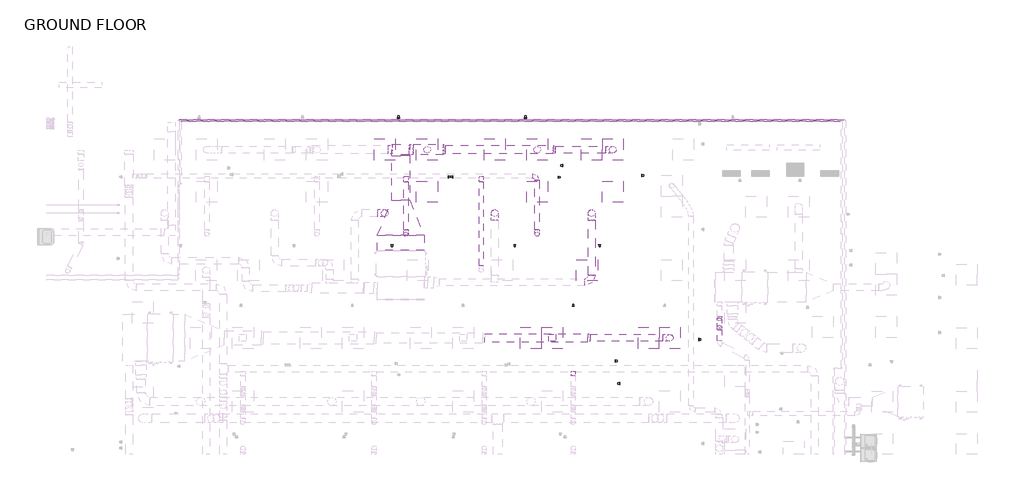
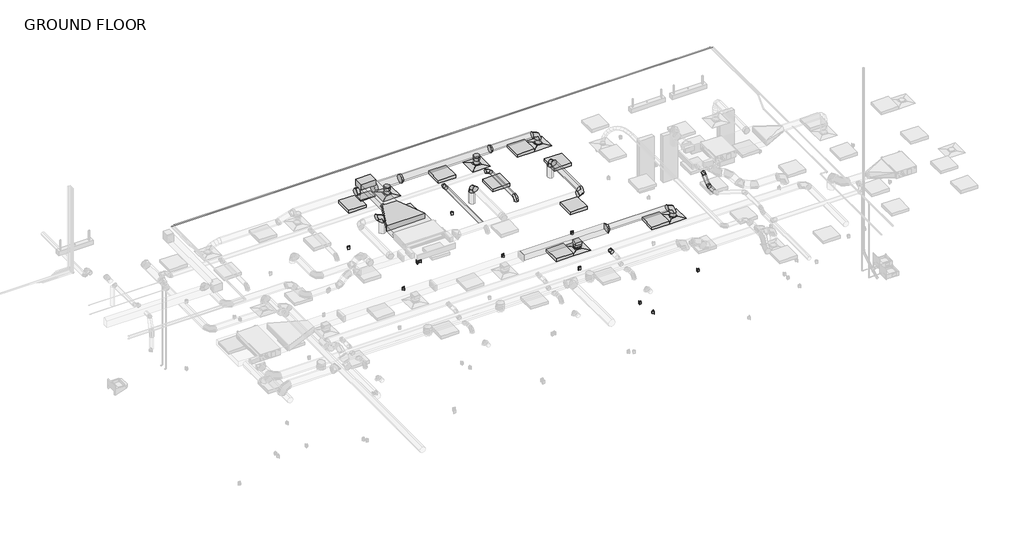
# One storey, part 17 of 20: 26 duct fittings, 24 duct segments, 10 proxies, 9 light fixtures, 5 air terminals, 4 switching devices, 2 pipe segments.
"""IFC4 building model written with IfcOpenShell, lengths in millimetres."""

from ifc_helpers import new_model, si_unit, point, frame, frame_2d, origin, place, context, project, spatial, polyline, circle_curve, trimmed, segment, composite_curve, outline, extrude, transform, mapped, element, save
from components import air_terminal_e9020785, duplex_receptacle_countertop_10251bba, rectangular_elbow_mitered_transition_standard_1af59134, rectangular_endcap_standard_fc39317d, rectangular_takeoff_standard_d07ea574, rectangular_transition_angle_45_degree_5314cfe0, rectangular_to_round_transition_angle_45_degree_e9430680, rectangular_to_round_transition_angle_45_degree_5a025447, round_elbow_1_d_a253342a, round_elbow_1_d_c80420c1, round_elbow_1_d_af7a7a65, round_takeoff_standard_272bb003, round_takeoff_standard_5e8805d5, round_takeoff_standard_98831ccd, round_takeoff_standard_a75a9c41, round_takeoff_standard_ca4b4131, round_takeoff_standard_17dc06e3, round_transition_angle_45_degree_a6ab1efb, round_transition_angle_45_degree_2c0294df, troffer_corner_insert_2x2_3lamp_e67c7f8f

model = new_model("IFC4")

# Units and contexts
model_context = context("Model", 3, world=origin())
ifc_project = project(units=[si_unit("LENGTHUNIT", "METRE", prefix="MILLI")], contexts=[model_context])

# Site, building, storey
site = spatial("IfcSite", under=ifc_project)
building = spatial("IfcBuilding", under=site)
storey = spatial("IfcBuildingStorey", under=building, Name="GROUND FLOOR", Elevation=30480.0)

# Air terminals
placement = place(None, origin())
air_terminal_shape = air_terminal_e9020785(model_context)
element("IfcAirTerminal", 1, ObjectType="Supply Diffuser - Rectangular Face Round Neck - Hosted : 24\"x24\" Face 8\" Neck - Hosted", at=placement, inside=storey, context=model_context, shape_type="MappedRepresentation", body=[
    mapped(air_terminal_shape, transform((6687.5045393, 6811.3695005, 33223.2), x_axis=(0.0, -1.0, 0.0), y_axis=(-1.0, 0.0, 0.0), z_axis=(0.0, 0.0, -1.0))),
])
element("IfcAirTerminal", 2, ObjectType="Supply Diffuser - Rectangular Face Round Neck - Hosted : 24\"x24\" Face 8\" Neck - Hosted", at=placement, inside=storey, context=model_context, shape_type="MappedRepresentation", body=[
    mapped(air_terminal_shape, transform((4938.0681472, 1382.1195005, 33223.2), x_axis=(0.0, -1.0, 0.0), y_axis=(-1.0, 0.0, 0.0), z_axis=(0.0, 0.0, -1.0))),
])
element("IfcAirTerminal", 3, ObjectType="Supply Diffuser - Rectangular Face Round Neck - Hosted : 24\"x24\" Face 8\" Neck - Hosted", at=placement, inside=storey, context=model_context, shape_type="MappedRepresentation", body=[
    mapped(air_terminal_shape, transform((1334.4545393, 6811.3695005, 33223.2), x_axis=(0.0, -1.0, 0.0), y_axis=(-1.0, 0.0, 0.0), z_axis=(0.0, 0.0, -1.0))),
])
element("IfcAirTerminal", 4, ObjectType="Supply Diffuser - Rectangular Face Round Neck - Hosted : 24\"x24\" Face 8\" Neck - Hosted", at=placement, inside=storey, context=model_context, shape_type="MappedRepresentation", body=[
    mapped(air_terminal_shape, transform((4506.2795393, 6811.3695005, 33223.2), x_axis=(0.0, -1.0, 0.0), y_axis=(-1.0, 0.0, 0.0), z_axis=(0.0, 0.0, -1.0))),
])
element("IfcAirTerminal", 5, ObjectType="Supply Diffuser - Rectangular Face Round Neck - Hosted : 24\"x24\" Face 8\" Neck - Hosted", at=placement, inside=storey, context=model_context, shape_type="MappedRepresentation", body=[
    mapped(air_terminal_shape, transform((8328.8671727, 1382.1195005, 33223.2), x_axis=(0.0, -1.0, 0.0), y_axis=(-1.0, 0.0, 0.0), z_axis=(0.0, 0.0, -1.0))),
])

# Proxies
duplex_receptacle_countertop_shape = duplex_receptacle_countertop_10251bba(model_context)
element("IfcBuildingElementProxy", 6, Name="Duplex Receptacle : Standard", ObjectType="Duplex Receptacle : Standard", at=placement, inside=storey, context=model_context, shape_type="MappedRepresentation", body=[
    mapped(duplex_receptacle_countertop_shape, transform((9173.5295393, 1338.7424206, 30937.2), x_axis=(0.0, -1.0, 0.0), y_axis=(0.0, 0.0, 1.0), z_axis=(-1.0, 0.0, 0.0))),
])
element("IfcBuildingElementProxy", 7, Name="Duplex Receptacle : Standard", ObjectType="Duplex Receptacle : Standard", at=placement, inside=storey, context=model_context, shape_type="MappedRepresentation", body=[
    mapped(duplex_receptacle_countertop_shape, transform((6887.5295393, 71.4994744, 30937.2), x_axis=(0.0, 1.0, 0.0), y_axis=(0.0, 0.0, 1.0), z_axis=(1.0, 0.0, 0.0))),
])
element("IfcBuildingElementProxy", 8, Name="Duplex Receptacle : Standard", ObjectType="Duplex Receptacle : Standard", at=placement, inside=storey, context=model_context, shape_type="MappedRepresentation", body=[
    mapped(duplex_receptacle_countertop_shape, transform((6763.7045393, 721.6502033, 30937.2), x_axis=(0.0, -1.0, 0.0), y_axis=(0.0, 0.0, 1.0), z_axis=(-1.0, 0.0, 0.0))),
])
element("IfcBuildingElementProxy", 9, Name="Duplex Receptacle : Standard", ObjectType="Duplex Receptacle : Standard", at=placement, inside=storey, context=model_context, shape_type="MappedRepresentation", body=[
    mapped(duplex_receptacle_countertop_shape, transform((512.696222, 7725.7695005, 30937.2), x_axis=(-1.0, 0.0, 0.0), y_axis=(0.0, 0.0, -1.0), z_axis=(0.0, -1.0, 0.0))),
])
element("IfcBuildingElementProxy", 10, Name="Duplex Receptacle : Standard", ObjectType="Duplex Receptacle : Standard", at=placement, inside=storey, context=model_context, shape_type="MappedRepresentation", body=[
    mapped(duplex_receptacle_countertop_shape, transform((2067.8795393, 6025.6008767, 30937.2), x_axis=(0.0, 1.0, 0.0), y_axis=(0.0, 0.0, 1.0), z_axis=(1.0, 0.0, 0.0))),
])
element("IfcBuildingElementProxy", 11, Name="Duplex Receptacle : Standard", ObjectType="Duplex Receptacle : Standard", at=placement, inside=storey, context=model_context, shape_type="MappedRepresentation", body=[
    mapped(duplex_receptacle_countertop_shape, transform((1944.0545393, 6025.6008767, 30937.2), x_axis=(0.0, -1.0, 0.0), y_axis=(0.0, 0.0, 1.0), z_axis=(-1.0, 0.0, 0.0))),
])
element("IfcBuildingElementProxy", 12, Name="Duplex Receptacle : Standard", ObjectType="Duplex Receptacle : Standard", at=placement, inside=storey, context=model_context, shape_type="MappedRepresentation", body=[
    mapped(duplex_receptacle_countertop_shape, transform((4175.0747127, 7725.7695005, 30937.2), x_axis=(-1.0, 0.0, 0.0), y_axis=(0.0, 0.0, -1.0), z_axis=(0.0, -1.0, 0.0))),
])
element("IfcBuildingElementProxy", 13, Name="Duplex Receptacle : Standard", ObjectType="Duplex Receptacle : Standard", at=placement, inside=storey, context=model_context, shape_type="MappedRepresentation", body=[
    mapped(duplex_receptacle_countertop_shape, transform((5115.8795393, 6012.9284472, 30937.2), x_axis=(0.0, -1.0, 0.0), y_axis=(0.0, 0.0, 1.0), z_axis=(-1.0, 0.0, 0.0))),
])
element("IfcBuildingElementProxy", 14, Name="Duplex Receptacle : Standard", ObjectType="Duplex Receptacle : Standard", at=placement, inside=storey, context=model_context, shape_type="MappedRepresentation", body=[
    mapped(duplex_receptacle_countertop_shape, transform((5239.7045393, 6355.0840427, 30937.2), x_axis=(0.0, 1.0, 0.0), y_axis=(0.0, 0.0, 1.0), z_axis=(1.0, 0.0, 0.0))),
])
element("IfcBuildingElementProxy", 15, Name="Duplex Receptacle : Standard", ObjectType="Duplex Receptacle : Standard", at=placement, inside=storey, context=model_context, shape_type="MappedRepresentation", body=[
    mapped(duplex_receptacle_countertop_shape, transform((7525.7045393, 6063.6181651, 30937.2), x_axis=(0.0, -1.0, 0.0), y_axis=(0.0, 0.0, 1.0), z_axis=(-1.0, 0.0, 0.0))),
])

# Duct fittings
rectangular_elbow_mitered_transition_standard_shape = rectangular_elbow_mitered_transition_standard_1af59134(model_context)
element("IfcDuctFitting", 16, ObjectType="Rectangular Elbow - Mitered - Transition : Standard", at=placement, inside=storey, context=model_context, shape_type="MappedRepresentation", body=[
    mapped(rectangular_elbow_mitered_transition_standard_shape, transform((575.9935718, 6811.3695005, 33934.4), x_axis=(0.0, 1.0, 0.0), y_axis=(0.0, 0.0, -1.0), z_axis=(-1.0, 0.0, 0.0))),
])
rectangular_endcap_standard_shape = rectangular_endcap_standard_fc39317d(model_context)
element("IfcDuctFitting", 17, ObjectType="Rectangular Endcap : Standard", at=placement, inside=storey, context=model_context, shape_type="MappedRepresentation", body=[
    mapped(rectangular_endcap_standard_shape, transform((575.9935718, 6811.3695005, 33426.4), x_axis=(0.0, 0.0, -1.0), y_axis=(1.0, 0.0, 0.0), z_axis=(0.0, -1.0, 0.0))),
])
rectangular_takeoff_standard_shape = rectangular_takeoff_standard_d07ea574(model_context)
element("IfcDuctFitting", 18, ObjectType="Rectangular Takeoff : Standard", at=placement, inside=storey, context=model_context, shape_type="MappedRepresentation", body=[
    mapped(rectangular_takeoff_standard_shape, transform((4938.0681472, 1382.1195005, 33502.6), x_axis=(0.0, 0.0, -1.0), y_axis=(1.0, 0.0, 0.0), z_axis=(0.0, -1.0, 0.0))),
])
rectangular_transition_angle_45_degree_shape = rectangular_transition_angle_45_degree_5314cfe0(model_context)
element("IfcDuctFitting", 19, ObjectType="Rectangular Transition - Angle : 45 Degree", at=placement, inside=storey, context=model_context, shape_type="MappedRepresentation", body=[
    mapped(rectangular_transition_angle_45_degree_shape, transform((575.9935718, 4334.7022191, 33934.4), x_axis=(0.0, 1.0, 0.0), y_axis=(-1.0, 0.0, 0.0), z_axis=(0.0, 0.0, 1.0))),
])
rectangular_to_round_transition_angle_45_degree_shape = rectangular_to_round_transition_angle_45_degree_e9430680(model_context)
element("IfcDuctFitting", 20, ObjectType="Rectangular to Round Transition - Angle : 45 Degree", at=placement, inside=storey, context=model_context, shape_type="MappedRepresentation", body=[
    mapped(rectangular_to_round_transition_angle_45_degree_shape, transform((5972.1335148, 1382.1195005, 33604.2), x_axis=(1.0, 0.0, 0.0), y_axis=(0.0, 1.0, 0.0), z_axis=(0.0, 0.0, 1.0))),
])
rectangular_to_round_transition_angle_45_degree_2_shape = rectangular_to_round_transition_angle_45_degree_5a025447(model_context)
element("IfcDuctFitting", 21, ObjectType="Rectangular to Round Transition - Angle : 45 Degree", at=placement, inside=storey, context=model_context, shape_type="MappedRepresentation", body=[
    mapped(rectangular_to_round_transition_angle_45_degree_2_shape, transform((4938.0681472, 1382.1195005, 33327.975), x_axis=(0.0, 0.0, -1.0), y_axis=(1.0, 0.0, 0.0), z_axis=(0.0, -1.0, 0.0))),
])
round_elbow_1_d_shape = round_elbow_1_d_a253342a(model_context)
element("IfcDuctFitting", 22, ObjectType="Round Elbow : 1 D", at=placement, inside=storey, context=model_context, shape_type="MappedRepresentation", body=[
    mapped(round_elbow_1_d_shape, transform((8328.8671727, 1382.1195005, 33604.2), x_axis=(0.0, 0.0, 1.0), y_axis=(-1.0, 0.0, 0.0), z_axis=(0.0, -1.0, 0.0))),
])
element("IfcDuctFitting", 23, ObjectType="Round Elbow : 1 D", at=placement, inside=storey, context=model_context, shape_type="MappedRepresentation", body=[
    mapped(round_elbow_1_d_shape, transform((6687.5045393, 6811.3695005, 33629.6), x_axis=(1.0, 0.0, 0.0), y_axis=(0.0, 0.0, -1.0), z_axis=(0.0, 1.0, 0.0))),
])
element("IfcDuctFitting", 24, ObjectType="Round Elbow : 1 D", at=placement, inside=storey, context=model_context, shape_type="MappedRepresentation", body=[
    mapped(round_elbow_1_d_shape, transform((115.2545393, 4982.5695005, 33947.89375), x_axis=(0.0, 0.0, 1.0), y_axis=(-1.0, 0.0, 0.0), z_axis=(0.0, -1.0, 0.0))),
])
element("IfcDuctFitting", 25, ObjectType="Round Elbow : 1 D", at=placement, inside=storey, context=model_context, shape_type="MappedRepresentation", body=[
    mapped(round_elbow_1_d_shape, transform((6077.9045393, 4982.5695005, 33947.89375), x_axis=(0.0, 0.0, 1.0), y_axis=(0.0, -1.0, 0.0), z_axis=(1.0, 0.0, 0.0))),
])
element("IfcDuctFitting", 26, ObjectType="Round Elbow : 1 D", at=placement, inside=storey, context=model_context, shape_type="MappedRepresentation", body=[
    mapped(round_elbow_1_d_shape, transform((3287.0795393, 4982.5695005, 33947.89375), x_axis=(0.0, 0.0, 1.0), y_axis=(0.0, -1.0, 0.0), z_axis=(1.0, 0.0, 0.0))),
])
element("IfcDuctFitting", 27, ObjectType="Round Elbow : 1 D", at=placement, inside=storey, context=model_context, shape_type="MappedRepresentation", body=[
    mapped(round_elbow_1_d_shape, transform((6077.9045393, 2984.6075456, 33947.89375), x_axis=(1.0, 0.0, 0.0), y_axis=(0.0, 1.0, 0.0), z_axis=(0.0, 0.0, 1.0))),
])
round_elbow_1_d_2_shape = round_elbow_1_d_c80420c1(model_context)
element("IfcDuctFitting", 28, ObjectType="Round Elbow : 1 D", at=placement, inside=storey, context=model_context, shape_type="MappedRepresentation", body=[
    mapped(round_elbow_1_d_2_shape, transform((4506.2795393, 4372.9695005, 33464.5), x_axis=(0.0, 0.0, 1.0), y_axis=(0.0, 1.0, 0.0), z_axis=(-1.0, 0.0, 0.0))),
])
element("IfcDuctFitting", 29, ObjectType="Round Elbow : 1 D", at=placement, inside=storey, context=model_context, shape_type="MappedRepresentation", body=[
    mapped(round_elbow_1_d_2_shape, transform((724.8545393, 4372.9695005, 33464.5), x_axis=(0.0, -1.0, 0.0), y_axis=(0.0, 0.0, -1.0), z_axis=(1.0, 0.0, 0.0))),
])
element("IfcDuctFitting", 30, ObjectType="Round Elbow : 1 D", at=placement, inside=storey, context=model_context, shape_type="MappedRepresentation", body=[
    mapped(round_elbow_1_d_2_shape, transform((4506.2795393, 6049.3695005, 33464.5), x_axis=(0.0, 1.0, 0.0), y_axis=(-1.0, 0.0, 0.0), z_axis=(0.0, 0.0, 1.0))),
])
round_elbow_1_d_3_shape = round_elbow_1_d_af7a7a65(model_context)
element("IfcDuctFitting", 31, ObjectType="Round Elbow : 1 D", at=placement, inside=storey, context=model_context, shape_type="MappedRepresentation", body=[
    mapped(round_elbow_1_d_3_shape, transform((9756.9865694, 1956.865397, 33992.34375), x_axis=(0.0, -1.0, 0.0), y_axis=(0.0, 0.0, -1.0), z_axis=(1.0, 0.0, 0.0))),
])
element("IfcDuctFitting", 32, ObjectType="Round Elbow : 1 D", at=placement, inside=storey, context=model_context, shape_type="MappedRepresentation", body=[
    mapped(round_elbow_1_d_3_shape, transform((9756.9865694, 1663.3685291, 33705.8), x_axis=(0.0, -0.7155316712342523, -0.698580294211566), y_axis=(0.0, -0.698580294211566, 0.7155316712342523), z_axis=(-1.0, 0.0, 0.0))),
])
round_takeoff_standard_shape = round_takeoff_standard_272bb003(model_context)
element("IfcDuctFitting", 33, ObjectType="Round Takeoff : Standard", at=placement, inside=storey, context=model_context, shape_type="MappedRepresentation", body=[
    mapped(round_takeoff_standard_shape, transform((5547.6681472, 391.7414929, 33528.0), x_axis=(0.0, -1.0, 0.0), y_axis=(-1.0, 0.0, 0.0), z_axis=(0.0, 0.0, -1.0))),
])
round_takeoff_standard_2_shape = round_takeoff_standard_5e8805d5(model_context)
element("IfcDuctFitting", 34, ObjectType="Round Takeoff : Standard", at=placement, inside=storey, context=model_context, shape_type="MappedRepresentation", body=[
    mapped(round_takeoff_standard_2_shape, transform((829.9935718, 6811.3695005, 33629.6), x_axis=(1.0, 0.0, 0.0), y_axis=(0.0, 0.0, 1.0), z_axis=(0.0, -1.0, 0.0))),
])
round_takeoff_standard_3_shape = round_takeoff_standard_98831ccd(model_context)
element("IfcDuctFitting", 35, ObjectType="Round Takeoff : Standard", at=placement, inside=storey, context=model_context, shape_type="MappedRepresentation", body=[
    mapped(round_takeoff_standard_3_shape, transform((321.9935718, 6811.3695005, 33680.0490295), x_axis=(-1.0, 0.0, 0.0), y_axis=(0.0, 0.0, 1.0), z_axis=(0.0, 1.0, 0.0))),
])
round_takeoff_standard_4_shape = round_takeoff_standard_a75a9c41(model_context)
element("IfcDuctFitting", 36, ObjectType="Round Takeoff : Standard", at=placement, inside=storey, context=model_context, shape_type="MappedRepresentation", body=[
    mapped(round_takeoff_standard_4_shape, transform((1334.4545393, 6811.3695005, 33477.2), x_axis=(0.0, 0.0, -1.0), y_axis=(1.0, 0.0, 0.0), z_axis=(0.0, -1.0, 0.0))),
])
round_takeoff_standard_5_shape = round_takeoff_standard_ca4b4131(model_context)
element("IfcDuctFitting", 37, ObjectType="Round Takeoff : Standard", at=placement, inside=storey, context=model_context, shape_type="MappedRepresentation", body=[
    mapped(round_takeoff_standard_5_shape, transform((4506.2795393, 6811.3695005, 33502.6), x_axis=(0.0, 0.0, -1.0), y_axis=(1.0, 0.0, 0.0), z_axis=(0.0, -1.0, 0.0))),
])
round_takeoff_standard_6_shape = round_takeoff_standard_17dc06e3(model_context)
element("IfcDuctFitting", 38, ObjectType="Round Takeoff : Standard", at=placement, inside=storey, context=model_context, shape_type="MappedRepresentation", body=[
    mapped(round_takeoff_standard_6_shape, transform((2896.5545393, 5985.8695005, 33464.5), x_axis=(0.0, -1.0, 0.0), y_axis=(-1.0, 0.0, 0.0), z_axis=(0.0, 0.0, -1.0))),
])
element("IfcDuctFitting", 39, ObjectType="Round Takeoff : Standard", at=placement, inside=storey, context=model_context, shape_type="MappedRepresentation", body=[
    mapped(round_takeoff_standard_6_shape, transform((724.8545393, 5985.8695005, 33464.5), x_axis=(0.0, -1.0, 0.0), y_axis=(-1.0, 0.0, 0.0), z_axis=(0.0, 0.0, -1.0))),
])
round_transition_angle_45_degree_shape = round_transition_angle_45_degree_a6ab1efb(model_context)
element("IfcDuctFitting", 40, ObjectType="Round Transition - Angle : 45 Degree", at=placement, inside=storey, context=model_context, shape_type="MappedRepresentation", body=[
    mapped(round_transition_angle_45_degree_shape, transform((1795.1935718, 6811.3695005, 33629.6), x_axis=(1.0, 0.0, 0.0), y_axis=(0.0, 1.0, 0.0), z_axis=(0.0, 0.0, 1.0))),
])
round_transition_angle_45_degree_2_shape = round_transition_angle_45_degree_2c0294df(model_context)
element("IfcDuctFitting", 41, ObjectType="Round Transition - Angle : 45 Degree", at=placement, inside=storey, context=model_context, shape_type="MappedRepresentation", body=[
    mapped(round_transition_angle_45_degree_2_shape, transform((4970.1935718, 6811.3695005, 33629.6), x_axis=(1.0, 0.0, 0.0), y_axis=(0.0, 1.0, 0.0), z_axis=(0.0, 0.0, 1.0))),
])

# Duct segments
element("IfcDuctSegment", 42, ObjectType="Mitered Elbows / Taps", at=placement, inside=storey, context=model_context, shape_type="SweptSolid", body=[
    extrude(outline(polyline([(2995.9755638, 1255.1195005), (2995.9755638, 1509.1195005), (5972.1335148, 1509.1195005), (5972.1335148, 1255.1195005), (2995.9755638, 1255.1195005)])), frame((0.0, 0.0, 33502.6), z_axis=(0.0, 0.0, 1.0), x_axis=(1.0, 0.0, 0.0)), (0.0, 0.0, 1.0), 203.2),
])
element("IfcDuctSegment", 43, ObjectType="Mitered Elbows / Taps", at=placement, inside=storey, context=model_context, shape_type="SweptSolid", body=[
    extrude(outline(polyline([(5039.6681472, 1280.5195005), (4836.4681472, 1280.5195005), (4836.4681472, 1483.7195005), (5039.6681472, 1483.7195005), (5039.6681472, 1280.5195005)])), frame((0.0, 0.0, 33327.975), z_axis=(0.0, 0.0, 1.0), x_axis=(1.0, 0.0, 0.0)), (0.0, 0.0, 1.0), 73.025),
])
element("IfcDuctSegment", 44, ObjectType="Mitered Elbows / Taps", at=placement, inside=storey, context=model_context, shape_type="SweptSolid", body=[
    extrude(outline(polyline([(829.9935718, 5346.4991231), (321.9935718, 5346.4991231), (321.9935718, 6633.5695005), (829.9935718, 6633.5695005), (829.9935718, 5346.4991231)])), frame((0.0, 0.0, 33832.8), z_axis=(0.0, 0.0, 1.0), x_axis=(1.0, 0.0, 0.0)), (0.0, 0.0, 1.0), 203.2),
])
element("IfcDuctSegment", 45, ObjectType="Mitered Elbows / Taps", at=placement, inside=storey, context=model_context, shape_type="SweptSolid", body=[
    extrude(outline(polyline([(829.9935718, 6963.7695005), (829.9935718, 6658.9695005), (321.9935718, 6658.9695005), (321.9935718, 6963.7695005), (829.9935718, 6963.7695005)])), frame((0.0, 0.0, 33426.4), z_axis=(0.0, 0.0, 1.0), x_axis=(1.0, 0.0, 0.0)), (0.0, 0.0, 1.0), 381.0),
])
element("IfcDuctSegment", 46, ObjectType="Mitered Elbows / Taps", at=placement, inside=storey, context=model_context, shape_type="SweptSolid", body=[
    extrude(outline(polyline([(1249.0935718, 3902.9022191), (-97.1064282, 3902.9022191), (-97.1064282, 4334.7022191), (1249.0935718, 4334.7022191), (1249.0935718, 3902.9022191)])), frame((0.0, 0.0, 33832.8), z_axis=(0.0, 0.0, 1.0), x_axis=(1.0, 0.0, 0.0)), (0.0, 0.0, 1.0), 203.2),
])
element("IfcDuctSegment", 47, ObjectType="Taps / Short Radius", at=placement, inside=storey, context=model_context, shape_type="SweptSolid", body=[
    extrude(outline(composite_curve([segment(trimmed(circle_curve(frame_2d((1382.1195005, 33604.2)), 101.6), [point((1483.7195005, 33604.2))], [point((1382.1195005, 33502.6))], False, "CARTESIAN"), True, "CONTINUOUS"), segment(trimmed(circle_curve(frame_2d((1382.1195005, 33604.2)), 101.6), [point((1382.1195005, 33502.6))], [point((1280.5195005, 33604.2))], False, "CARTESIAN"), True, "CONTINUOUS"), segment(trimmed(circle_curve(frame_2d((1382.1195005, 33604.2)), 101.6), [point((1280.5195005, 33604.2))], [point((1382.1195005, 33705.8))], False, "CARTESIAN"), True, "CONTINUOUS"), segment(trimmed(circle_curve(frame_2d((1382.1195005, 33604.2)), 101.6), [point((1382.1195005, 33705.8))], [point((1483.7195005, 33604.2))], False, "CARTESIAN"), True, "CONTINUOUS")], self_intersect=False)), frame((6033.4545393, 0.0, 0.0), z_axis=(1.0, 0.0, 0.0), x_axis=(0.0, 1.0, 0.0)), (0.0, 0.0, 1.0), 2092.2126334),
])
element("IfcDuctSegment", 48, ObjectType="Taps / Short Radius", at=placement, inside=storey, context=model_context, shape_type="SweptSolid", body=[
    extrude(outline(composite_curve([segment(trimmed(circle_curve(frame_2d((8328.8671727, 1382.1195005)), 101.6), [point((8328.8671727, 1483.7195005))], [point((8430.4671727, 1382.1195005))], False, "CARTESIAN"), True, "CONTINUOUS"), segment(trimmed(circle_curve(frame_2d((8328.8671727, 1382.1195005)), 101.6), [point((8430.4671727, 1382.1195005))], [point((8328.8671727, 1280.5195005))], False, "CARTESIAN"), True, "CONTINUOUS"), segment(trimmed(circle_curve(frame_2d((8328.8671727, 1382.1195005)), 101.6), [point((8328.8671727, 1280.5195005))], [point((8227.2671727, 1382.1195005))], False, "CARTESIAN"), True, "CONTINUOUS"), segment(trimmed(circle_curve(frame_2d((8328.8671727, 1382.1195005)), 101.6), [point((8227.2671727, 1382.1195005))], [point((8328.8671727, 1483.7195005))], False, "CARTESIAN"), True, "CONTINUOUS")], self_intersect=False)), frame((0.0, 0.0, 33277.175), z_axis=(0.0, 0.0, 1.0), x_axis=(1.0, 0.0, 0.0)), (0.0, 0.0, 1.0), 123.825),
])
element("IfcDuctSegment", 49, ObjectType="Taps / Short Radius", at=placement, inside=storey, context=model_context, shape_type="SweptSolid", body=[
    extrude(outline(composite_curve([segment(trimmed(circle_curve(frame_2d((6811.3695005, 33629.6)), 152.4), [point((6658.9695005, 33629.6))], [point((6811.3695005, 33782.0))], False, "CARTESIAN"), True, "CONTINUOUS"), segment(trimmed(circle_curve(frame_2d((6811.3695005, 33629.6)), 152.4), [point((6811.3695005, 33782.0))], [point((6963.7695005, 33629.6))], False, "CARTESIAN"), True, "CONTINUOUS"), segment(trimmed(circle_curve(frame_2d((6811.3695005, 33629.6)), 152.4), [point((6963.7695005, 33629.6))], [point((6811.3695005, 33477.2))], False, "CARTESIAN"), True, "CONTINUOUS"), segment(trimmed(circle_curve(frame_2d((6811.3695005, 33629.6)), 152.4), [point((6811.3695005, 33477.2))], [point((6658.9695005, 33629.6))], False, "CARTESIAN"), True, "CONTINUOUS")], self_intersect=False)), frame((931.5935718, 0.0, 0.0), z_axis=(1.0, 0.0, 0.0), x_axis=(0.0, 1.0, 0.0)), (0.0, 0.0, 1.0), 863.6),
])
element("IfcDuctSegment", 50, ObjectType="Taps / Short Radius", at=placement, inside=storey, context=model_context, shape_type="SweptSolid", body=[
    extrude(outline(composite_curve([segment(trimmed(circle_curve(frame_2d((6811.3695005, 33629.6)), 127.0), [point((6684.3695005, 33629.6))], [point((6811.3695005, 33756.6))], False, "CARTESIAN"), True, "CONTINUOUS"), segment(trimmed(circle_curve(frame_2d((6811.3695005, 33629.6)), 127.0), [point((6811.3695005, 33756.6))], [point((6938.3695005, 33629.6))], False, "CARTESIAN"), True, "CONTINUOUS"), segment(trimmed(circle_curve(frame_2d((6811.3695005, 33629.6)), 127.0), [point((6938.3695005, 33629.6))], [point((6811.3695005, 33502.6))], False, "CARTESIAN"), True, "CONTINUOUS"), segment(trimmed(circle_curve(frame_2d((6811.3695005, 33629.6)), 127.0), [point((6811.3695005, 33502.6))], [point((6684.3695005, 33629.6))], False, "CARTESIAN"), True, "CONTINUOUS")], self_intersect=False)), frame((1856.5145963, 0.0, 0.0), z_axis=(1.0, 0.0, 0.0), x_axis=(0.0, 1.0, 0.0)), (0.0, 0.0, 1.0), 3113.6789755),
])
element("IfcDuctSegment", 51, ObjectType="Taps / Short Radius", at=placement, inside=storey, context=model_context, shape_type="SweptSolid", body=[
    extrude(outline(composite_curve([segment(trimmed(circle_curve(frame_2d((6811.3695005, 33629.6)), 101.6), [point((6709.7695005, 33629.6))], [point((6811.3695005, 33731.2))], False, "CARTESIAN"), True, "CONTINUOUS"), segment(trimmed(circle_curve(frame_2d((6811.3695005, 33629.6)), 101.6), [point((6811.3695005, 33731.2))], [point((6912.9695005, 33629.6))], False, "CARTESIAN"), True, "CONTINUOUS"), segment(trimmed(circle_curve(frame_2d((6811.3695005, 33629.6)), 101.6), [point((6912.9695005, 33629.6))], [point((6811.3695005, 33528.0))], False, "CARTESIAN"), True, "CONTINUOUS"), segment(trimmed(circle_curve(frame_2d((6811.3695005, 33629.6)), 101.6), [point((6811.3695005, 33528.0))], [point((6709.7695005, 33629.6))], False, "CARTESIAN"), True, "CONTINUOUS")], self_intersect=False)), frame((5031.5145963, 0.0, 0.0), z_axis=(1.0, 0.0, 0.0), x_axis=(0.0, 1.0, 0.0)), (0.0, 0.0, 1.0), 1452.789943),
])
element("IfcDuctSegment", 52, ObjectType="Taps / Short Radius", at=placement, inside=storey, context=model_context, shape_type="SweptSolid", body=[
    extrude(outline(composite_curve([segment(trimmed(circle_curve(frame_2d((6687.5045393, 6811.3695005)), 101.6), [point((6687.5045393, 6912.9695005))], [point((6789.1045393, 6811.3695005))], False, "CARTESIAN"), True, "CONTINUOUS"), segment(trimmed(circle_curve(frame_2d((6687.5045393, 6811.3695005)), 101.6), [point((6789.1045393, 6811.3695005))], [point((6687.5045393, 6709.7695005))], False, "CARTESIAN"), True, "CONTINUOUS"), segment(trimmed(circle_curve(frame_2d((6687.5045393, 6811.3695005)), 101.6), [point((6687.5045393, 6709.7695005))], [point((6585.9045393, 6811.3695005))], False, "CARTESIAN"), True, "CONTINUOUS"), segment(trimmed(circle_curve(frame_2d((6687.5045393, 6811.3695005)), 101.6), [point((6585.9045393, 6811.3695005))], [point((6687.5045393, 6912.9695005))], False, "CARTESIAN"), True, "CONTINUOUS")], self_intersect=False)), frame((0.0, 0.0, 33277.175), z_axis=(0.0, 0.0, 1.0), x_axis=(1.0, 0.0, 0.0)), (0.0, 0.0, 1.0), 149.225),
])
element("IfcDuctSegment", 53, ObjectType="Taps / Short Radius", at=placement, inside=storey, context=model_context, shape_type="SweptSolid", body=[
    extrude(outline(composite_curve([segment(trimmed(circle_curve(frame_2d((4506.2795393, 6811.3695005)), 101.6), [point((4607.8795393, 6811.3695005))], [point((4506.2795393, 6709.7695005))], False, "CARTESIAN"), True, "CONTINUOUS"), segment(trimmed(circle_curve(frame_2d((4506.2795393, 6811.3695005)), 101.6), [point((4506.2795393, 6709.7695005))], [point((4404.6795393, 6811.3695005))], False, "CARTESIAN"), True, "CONTINUOUS"), segment(trimmed(circle_curve(frame_2d((4506.2795393, 6811.3695005)), 101.6), [point((4404.6795393, 6811.3695005))], [point((4506.2795393, 6912.9695005))], False, "CARTESIAN"), True, "CONTINUOUS"), segment(trimmed(circle_curve(frame_2d((4506.2795393, 6811.3695005)), 101.6), [point((4506.2795393, 6912.9695005))], [point((4607.8795393, 6811.3695005))], False, "CARTESIAN"), True, "CONTINUOUS")], self_intersect=False)), frame((0.0, 0.0, 33277.175), z_axis=(0.0, 0.0, 1.0), x_axis=(1.0, 0.0, 0.0)), (0.0, 0.0, 1.0), 123.825),
])
element("IfcDuctSegment", 54, ObjectType="Taps / Short Radius", at=placement, inside=storey, context=model_context, shape_type="SweptSolid", body=[
    extrude(outline(composite_curve([segment(trimmed(circle_curve(frame_2d((1334.4545393, 6811.3695005)), 101.6), [point((1436.0545393, 6811.3695005))], [point((1334.4545393, 6709.7695005))], False, "CARTESIAN"), True, "CONTINUOUS"), segment(trimmed(circle_curve(frame_2d((1334.4545393, 6811.3695005)), 101.6), [point((1334.4545393, 6709.7695005))], [point((1232.8545393, 6811.3695005))], False, "CARTESIAN"), True, "CONTINUOUS"), segment(trimmed(circle_curve(frame_2d((1334.4545393, 6811.3695005)), 101.6), [point((1232.8545393, 6811.3695005))], [point((1334.4545393, 6912.9695005))], False, "CARTESIAN"), True, "CONTINUOUS"), segment(trimmed(circle_curve(frame_2d((1334.4545393, 6811.3695005)), 101.6), [point((1334.4545393, 6912.9695005))], [point((1436.0545393, 6811.3695005))], False, "CARTESIAN"), True, "CONTINUOUS")], self_intersect=False)), frame((0.0, 0.0, 33277.175), z_axis=(0.0, 0.0, 1.0), x_axis=(1.0, 0.0, 0.0)), (0.0, 0.0, 1.0), 98.425),
])
element("IfcDuctSegment", 55, ObjectType="Taps / Short Radius", at=placement, inside=storey, context=model_context, shape_type="SweptSolid", body=[
    extrude(outline(composite_curve([segment(trimmed(circle_curve(frame_2d((115.2545393, 4982.5695005)), 101.6), [point((115.2545393, 5084.1695005))], [point((216.8545393, 4982.5695005))], False, "CARTESIAN"), True, "CONTINUOUS"), segment(trimmed(circle_curve(frame_2d((115.2545393, 4982.5695005)), 101.6), [point((216.8545393, 4982.5695005))], [point((115.2545393, 4880.9695005))], False, "CARTESIAN"), True, "CONTINUOUS"), segment(trimmed(circle_curve(frame_2d((115.2545393, 4982.5695005)), 101.6), [point((115.2545393, 4880.9695005))], [point((13.6545393, 4982.5695005))], False, "CARTESIAN"), True, "CONTINUOUS"), segment(trimmed(circle_curve(frame_2d((115.2545393, 4982.5695005)), 101.6), [point((13.6545393, 4982.5695005))], [point((115.2545393, 5084.1695005))], False, "CARTESIAN"), True, "CONTINUOUS")], self_intersect=False)), frame((0.0, 0.0, 33324.8), z_axis=(0.0, 0.0, 1.0), x_axis=(1.0, 0.0, 0.0)), (0.0, 0.0, 1.0), 419.89375),
])
element("IfcDuctSegment", 56, ObjectType="Taps / Short Radius", at=placement, inside=storey, context=model_context, shape_type="SweptSolid", body=[
    extrude(outline(composite_curve([segment(trimmed(circle_curve(frame_2d((33947.89375, 6077.9045393)), 101.6), [point((33947.89375, 5976.3045393))], [point((33846.29375, 6077.9045393))], False, "CARTESIAN"), True, "CONTINUOUS"), segment(trimmed(circle_curve(frame_2d((33947.89375, 6077.9045393)), 101.6), [point((33846.29375, 6077.9045393))], [point((33947.89375, 6179.5045393))], False, "CARTESIAN"), True, "CONTINUOUS"), segment(trimmed(circle_curve(frame_2d((33947.89375, 6077.9045393)), 101.6), [point((33947.89375, 6179.5045393))], [point((34049.49375, 6077.9045393))], False, "CARTESIAN"), True, "CONTINUOUS"), segment(trimmed(circle_curve(frame_2d((33947.89375, 6077.9045393)), 101.6), [point((34049.49375, 6077.9045393))], [point((33947.89375, 5976.3045393))], False, "CARTESIAN"), True, "CONTINUOUS")], self_intersect=False)), frame((0.0, 3187.8075456, 0.0), z_axis=(0.0, 1.0, 0.0), x_axis=(0.0, 0.0, 1.0)), (0.0, 0.0, 1.0), 1591.5619549),
])
element("IfcDuctSegment", 57, ObjectType="Taps / Short Radius", at=placement, inside=storey, context=model_context, shape_type="SweptSolid", body=[
    extrude(outline(composite_curve([segment(trimmed(circle_curve(frame_2d((6077.9045393, 4982.5695005)), 101.6), [point((5976.3045393, 4982.5695005))], [point((6077.9045393, 5084.1695005))], False, "CARTESIAN"), True, "CONTINUOUS"), segment(trimmed(circle_curve(frame_2d((6077.9045393, 4982.5695005)), 101.6), [point((6077.9045393, 5084.1695005))], [point((6179.5045393, 4982.5695005))], False, "CARTESIAN"), True, "CONTINUOUS"), segment(trimmed(circle_curve(frame_2d((6077.9045393, 4982.5695005)), 101.6), [point((6179.5045393, 4982.5695005))], [point((6077.9045393, 4880.9695005))], False, "CARTESIAN"), True, "CONTINUOUS"), segment(trimmed(circle_curve(frame_2d((6077.9045393, 4982.5695005)), 101.6), [point((6077.9045393, 4880.9695005))], [point((5976.3045393, 4982.5695005))], False, "CARTESIAN"), True, "CONTINUOUS")], self_intersect=False)), frame((0.0, 0.0, 33324.8), z_axis=(0.0, 0.0, 1.0), x_axis=(1.0, 0.0, 0.0)), (0.0, 0.0, 1.0), 419.89375),
])
element("IfcDuctSegment", 58, ObjectType="Taps / Short Radius", at=placement, inside=storey, context=model_context, shape_type="SweptSolid", body=[
    extrude(outline(composite_curve([segment(trimmed(circle_curve(frame_2d((3287.0795393, 4982.5695005)), 101.6), [point((3185.4795393, 4982.5695005))], [point((3287.0795393, 5084.1695005))], False, "CARTESIAN"), True, "CONTINUOUS"), segment(trimmed(circle_curve(frame_2d((3287.0795393, 4982.5695005)), 101.6), [point((3287.0795393, 5084.1695005))], [point((3388.6795393, 4982.5695005))], False, "CARTESIAN"), True, "CONTINUOUS"), segment(trimmed(circle_curve(frame_2d((3287.0795393, 4982.5695005)), 101.6), [point((3388.6795393, 4982.5695005))], [point((3287.0795393, 4880.9695005))], False, "CARTESIAN"), True, "CONTINUOUS"), segment(trimmed(circle_curve(frame_2d((3287.0795393, 4982.5695005)), 101.6), [point((3287.0795393, 4880.9695005))], [point((3185.4795393, 4982.5695005))], False, "CARTESIAN"), True, "CONTINUOUS")], self_intersect=False)), frame((0.0, 0.0, 33324.8), z_axis=(0.0, 0.0, 1.0), x_axis=(1.0, 0.0, 0.0)), (0.0, 0.0, 1.0), 419.89375),
])
element("IfcDuctSegment", 59, ObjectType="Taps / Short Radius", at=placement, inside=storey, context=model_context, shape_type="SweptSolid", body=[
    extrude(outline(composite_curve([segment(trimmed(circle_curve(frame_2d((0.0, -63.5)), 63.5), [point((-63.5, -63.5))], [point((0.0, 0.0))], False, "CARTESIAN"), True, "CONTINUOUS"), segment(trimmed(circle_curve(frame_2d((0.0, -63.5)), 63.5), [point((0.0, 0.0))], [point((63.5, -63.5))], False, "CARTESIAN"), True, "CONTINUOUS"), segment(trimmed(circle_curve(frame_2d((0.0, -63.5)), 63.5), [point((63.5, -63.5))], [point((0.0, -127.0))], False, "CARTESIAN"), True, "CONTINUOUS"), segment(trimmed(circle_curve(frame_2d((0.0, -63.5)), 63.5), [point((0.0, -127.0))], [point((-63.5, -63.5))], False, "CARTESIAN"), True, "CONTINUOUS")], self_intersect=False)), frame((9756.9865694, 1744.7325056, 33696.4912166), z_axis=(0.0, 0.7155316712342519, 0.6985802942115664), x_axis=(1.0, 0.0, 0.0)), (0.0, 0.0, 1.0), 306.7489826),
])
element("IfcDuctSegment", 60, ObjectType="Taps / Short Radius", at=placement, inside=storey, context=model_context, shape_type="SweptSolid", body=[
    extrude(outline(composite_curve([segment(trimmed(circle_curve(frame_2d((33705.8, 9756.9865694)), 63.5), [point((33705.8, 9693.4865694))], [point((33642.3, 9756.9865694))], False, "CARTESIAN"), True, "CONTINUOUS"), segment(trimmed(circle_curve(frame_2d((33705.8, 9756.9865694)), 63.5), [point((33642.3, 9756.9865694))], [point((33705.8, 9820.4865694))], False, "CARTESIAN"), True, "CONTINUOUS"), segment(trimmed(circle_curve(frame_2d((33705.8, 9756.9865694)), 63.5), [point((33705.8, 9820.4865694))], [point((33769.3, 9756.9865694))], False, "CARTESIAN"), True, "CONTINUOUS"), segment(trimmed(circle_curve(frame_2d((33705.8, 9756.9865694)), 63.5), [point((33769.3, 9756.9865694))], [point((33705.8, 9693.4865694))], False, "CARTESIAN"), True, "CONTINUOUS")], self_intersect=False)), frame((0.0, 1302.5512314, 0.0), z_axis=(0.0, 1.0, 0.0), x_axis=(0.0, 0.0, 1.0)), (0.0, 0.0, 1.0), 309.1017282),
])
element("IfcDuctSegment", 61, ObjectType="Taps / Short Radius", at=placement, inside=storey, context=model_context, shape_type="SweptSolid", body=[
    extrude(outline(composite_curve([segment(trimmed(circle_curve(frame_2d((33464.5, 4506.2795393)), 63.5), [point((33464.5, 4569.7795393))], [point((33528.0, 4506.2795393))], False, "CARTESIAN"), True, "CONTINUOUS"), segment(trimmed(circle_curve(frame_2d((33464.5, 4506.2795393)), 63.5), [point((33528.0, 4506.2795393))], [point((33464.5, 4442.7795393))], False, "CARTESIAN"), True, "CONTINUOUS"), segment(trimmed(circle_curve(frame_2d((33464.5, 4506.2795393)), 63.5), [point((33464.5, 4442.7795393))], [point((33401.0, 4506.2795393))], False, "CARTESIAN"), True, "CONTINUOUS"), segment(trimmed(circle_curve(frame_2d((33464.5, 4506.2795393)), 63.5), [point((33401.0, 4506.2795393))], [point((33464.5, 4569.7795393))], False, "CARTESIAN"), True, "CONTINUOUS")], self_intersect=False)), frame((0.0, 4499.9695005, 0.0), z_axis=(0.0, 1.0, 0.0), x_axis=(0.0, 0.0, 1.0)), (0.0, 0.0, 1.0), 1422.4),
])
element("IfcDuctSegment", 62, ObjectType="Taps / Short Radius", at=placement, inside=storey, context=model_context, shape_type="SweptSolid", body=[
    extrude(outline(composite_curve([segment(trimmed(circle_curve(frame_2d((4506.2795393, 4372.9695005)), 63.5), [point((4569.7795393, 4372.9695005))], [point((4506.2795393, 4309.4695005))], False, "CARTESIAN"), True, "CONTINUOUS"), segment(trimmed(circle_curve(frame_2d((4506.2795393, 4372.9695005)), 63.5), [point((4506.2795393, 4309.4695005))], [point((4442.7795393, 4372.9695005))], False, "CARTESIAN"), True, "CONTINUOUS"), segment(trimmed(circle_curve(frame_2d((4506.2795393, 4372.9695005)), 63.5), [point((4442.7795393, 4372.9695005))], [point((4506.2795393, 4436.4695005))], False, "CARTESIAN"), True, "CONTINUOUS"), segment(trimmed(circle_curve(frame_2d((4506.2795393, 4372.9695005)), 63.5), [point((4506.2795393, 4436.4695005))], [point((4569.7795393, 4372.9695005))], False, "CARTESIAN"), True, "CONTINUOUS")], self_intersect=False)), frame((0.0, 0.0, 33324.8), z_axis=(0.0, 0.0, 1.0), x_axis=(1.0, 0.0, 0.0)), (0.0, 0.0, 1.0), 12.7),
])
element("IfcDuctSegment", 63, ObjectType="Taps / Short Radius", at=placement, inside=storey, context=model_context, shape_type="SweptSolid", body=[
    extrude(outline(composite_curve([segment(trimmed(circle_curve(frame_2d((33464.5, 2896.5545393)), 63.5), [point((33464.5, 2833.0545393))], [point((33401.0, 2896.5545393))], False, "CARTESIAN"), True, "CONTINUOUS"), segment(trimmed(circle_curve(frame_2d((33464.5, 2896.5545393)), 63.5), [point((33401.0, 2896.5545393))], [point((33464.5, 2960.0545393))], False, "CARTESIAN"), True, "CONTINUOUS"), segment(trimmed(circle_curve(frame_2d((33464.5, 2896.5545393)), 63.5), [point((33464.5, 2960.0545393))], [point((33528.0, 2896.5545393))], False, "CARTESIAN"), True, "CONTINUOUS"), segment(trimmed(circle_curve(frame_2d((33464.5, 2896.5545393)), 63.5), [point((33528.0, 2896.5545393))], [point((33464.5, 2833.0545393))], False, "CARTESIAN"), True, "CONTINUOUS")], self_intersect=False)), frame((0.0, 3461.7445005, 0.0), z_axis=(0.0, 1.0, 0.0), x_axis=(0.0, 0.0, 1.0)), (0.0, 0.0, 1.0), 2422.525),
])
element("IfcDuctSegment", 64, ObjectType="Taps / Short Radius", at=placement, inside=storey, context=model_context, shape_type="SweptSolid", body=[
    extrude(outline(composite_curve([segment(trimmed(circle_curve(frame_2d((0.0, 63.5)), 63.5), [point((-63.5, 63.5))], [point((0.0, 127.0))], False, "CARTESIAN"), True, "CONTINUOUS"), segment(trimmed(circle_curve(frame_2d((0.0, 63.5)), 63.5), [point((0.0, 127.0))], [point((63.5, 63.5))], False, "CARTESIAN"), True, "CONTINUOUS"), segment(trimmed(circle_curve(frame_2d((0.0, 63.5)), 63.5), [point((63.5, 63.5))], [point((0.0, 0.0))], False, "CARTESIAN"), True, "CONTINUOUS"), segment(trimmed(circle_curve(frame_2d((0.0, 63.5)), 63.5), [point((0.0, 0.0))], [point((-63.5, 63.5))], False, "CARTESIAN"), True, "CONTINUOUS")], self_intersect=False)), frame((724.8545393, 4309.4695005, 33324.8), z_axis=(0.0, -1.0231815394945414e-12, 1.0), x_axis=(1.0, 0.0, 0.0)), (0.0, 0.0, 1.0), 12.7),
])
element("IfcDuctSegment", 65, ObjectType="Taps / Short Radius", at=placement, inside=storey, context=model_context, shape_type="SweptSolid", body=[
    extrude(outline(composite_curve([segment(trimmed(circle_curve(frame_2d((33464.5, 724.8545393)), 63.5), [point((33464.5, 661.3545393))], [point((33401.0, 724.8545393))], False, "CARTESIAN"), True, "CONTINUOUS"), segment(trimmed(circle_curve(frame_2d((33464.5, 724.8545393)), 63.5), [point((33401.0, 724.8545393))], [point((33464.5, 788.3545393))], False, "CARTESIAN"), True, "CONTINUOUS"), segment(trimmed(circle_curve(frame_2d((33464.5, 724.8545393)), 63.5), [point((33464.5, 788.3545393))], [point((33528.0, 724.8545393))], False, "CARTESIAN"), True, "CONTINUOUS"), segment(trimmed(circle_curve(frame_2d((33464.5, 724.8545393)), 63.5), [point((33528.0, 724.8545393))], [point((33464.5, 661.3545393))], False, "CARTESIAN"), True, "CONTINUOUS")], self_intersect=False)), frame((0.0, 4499.9695005, 0.0), z_axis=(0.0, 1.0, 0.0), x_axis=(0.0, 0.0, 1.0)), (0.0, 0.0, 1.0), 1384.3),
])

# Light fixtures
troffer_corner_insert_2x2_3lamp_shape = troffer_corner_insert_2x2_3lamp_e67c7f8f(model_context)
element("IfcLightFixture", 66, ObjectType="Troffer Corner Insert : 2x2 3Lamp", at=placement, inside=storey, context=model_context, shape_type="MappedRepresentation", body=[
    mapped(troffer_corner_insert_2x2_3lamp_shape, transform((115.2545393, 6811.3695005, 30784.8), x_axis=(1.0, 0.0, 0.0), y_axis=(0.0, 1.0, 0.0), z_axis=(0.0, 0.0, 1.0))),
])
element("IfcLightFixture", 67, ObjectType="Troffer Corner Insert : 2x2 3Lamp", at=placement, inside=storey, context=model_context, shape_type="MappedRepresentation", body=[
    mapped(troffer_corner_insert_2x2_3lamp_shape, transform((1334.4545393, 5592.1695005, 30784.8), x_axis=(1.0, 0.0, 0.0), y_axis=(0.0, 1.0, 0.0), z_axis=(0.0, 0.0, 1.0))),
])
element("IfcLightFixture", 68, ObjectType="Troffer Corner Insert : 2x2 3Lamp", at=placement, inside=storey, context=model_context, shape_type="MappedRepresentation", body=[
    mapped(troffer_corner_insert_2x2_3lamp_shape, transform((3287.0795393, 6811.3695005, 30784.8), x_axis=(1.0, 0.0, 0.0), y_axis=(0.0, 1.0, 0.0), z_axis=(0.0, 0.0, 1.0))),
])
element("IfcLightFixture", 69, ObjectType="Troffer Corner Insert : 2x2 3Lamp", at=placement, inside=storey, context=model_context, shape_type="MappedRepresentation", body=[
    mapped(troffer_corner_insert_2x2_3lamp_shape, transform((4506.2795393, 5592.1695005, 30784.8), x_axis=(1.0, 0.0, 0.0), y_axis=(0.0, 1.0, 0.0), z_axis=(0.0, 0.0, 1.0))),
])
element("IfcLightFixture", 70, ObjectType="Troffer Corner Insert : 2x2 3Lamp", at=placement, inside=storey, context=model_context, shape_type="MappedRepresentation", body=[
    mapped(troffer_corner_insert_2x2_3lamp_shape, transform((6077.9045393, 6811.3695005, 30784.8), x_axis=(1.0, 0.0, 0.0), y_axis=(0.0, 1.0, 0.0), z_axis=(0.0, 0.0, 1.0))),
])
element("IfcLightFixture", 71, ObjectType="Troffer Corner Insert : 2x2 3Lamp", at=placement, inside=storey, context=model_context, shape_type="MappedRepresentation", body=[
    mapped(troffer_corner_insert_2x2_3lamp_shape, transform((6687.5045393, 5592.1695005, 30784.8), x_axis=(1.0, 0.0, 0.0), y_axis=(0.0, 1.0, 0.0), z_axis=(0.0, 0.0, 1.0))),
])
element("IfcLightFixture", 72, ObjectType="Troffer Corner Insert : 2x2 3Lamp", at=placement, inside=storey, context=model_context, shape_type="MappedRepresentation", body=[
    mapped(troffer_corner_insert_2x2_3lamp_shape, transform((5944.5545393, 3334.7445005, 30784.8), x_axis=(1.0, 0.0, 0.0), y_axis=(0.0, 1.0, 0.0), z_axis=(0.0, 0.0, 1.0))),
])
element("IfcLightFixture", 73, ObjectType="Troffer Corner Insert : 2x2 3Lamp", at=placement, inside=storey, context=model_context, shape_type="MappedRepresentation", body=[
    mapped(troffer_corner_insert_2x2_3lamp_shape, transform((4325.3045393, 1382.1195005, 30784.8), x_axis=(1.0, 0.0, 0.0), y_axis=(0.0, 1.0, 0.0), z_axis=(0.0, 0.0, 1.0))),
])
element("IfcLightFixture", 74, ObjectType="Troffer Corner Insert : 2x2 3Lamp", at=placement, inside=storey, context=model_context, shape_type="MappedRepresentation", body=[
    mapped(troffer_corner_insert_2x2_3lamp_shape, transform((7719.2671727, 1382.1195005, 30784.8), x_axis=(1.0, 0.0, 0.0), y_axis=(0.0, 1.0, 0.0), z_axis=(0.0, 0.0, 1.0))),
])

# Pipe segments
element("IfcPipeSegment", 75, ObjectType="Copper Tubing", at=placement, inside=storey, context=model_context, shape_type="SweptSolid", body=[
    extrude(outline(composite_curve([segment(trimmed(circle_curve(frame_2d((7665.0593518, 33978.2831664)), 14.2875), [point((7650.7718518, 33978.2831664))], [point((7665.0593518, 33992.5706664))], False, "CARTESIAN"), True, "CONTINUOUS"), segment(trimmed(circle_curve(frame_2d((7665.0593518, 33978.2831664)), 14.2875), [point((7665.0593518, 33992.5706664))], [point((7679.3468518, 33978.2831664))], False, "CARTESIAN"), True, "CONTINUOUS"), segment(trimmed(circle_curve(frame_2d((7665.0593518, 33978.2831664)), 14.2875), [point((7679.3468518, 33978.2831664))], [point((7665.0593518, 33963.9956664))], False, "CARTESIAN"), True, "CONTINUOUS"), segment(trimmed(circle_curve(frame_2d((7665.0593518, 33978.2831664)), 14.2875), [point((7665.0593518, 33963.9956664))], [point((7650.7718518, 33978.2831664))], False, "CARTESIAN"), True, "CONTINUOUS")], self_intersect=False)), frame((-5798.1829607, 0.0, 0.0), z_axis=(1.0, 0.0, 0.0), x_axis=(0.0, 1.0, 0.0)), (0.0, 0.0, 1.0), 19161.1023784),
])
element("IfcPipeSegment", 76, ObjectType="Copper Tubing", at=placement, inside=storey, context=model_context, shape_type="SweptSolid", body=[
    extrude(outline(composite_curve([segment(trimmed(circle_curve(frame_2d((7628.1810166, 34023.2999997)), 14.2875), [point((7613.8935166, 34023.2999997))], [point((7628.1810166, 34037.5874997))], False, "CARTESIAN"), True, "CONTINUOUS"), segment(trimmed(circle_curve(frame_2d((7628.1810166, 34023.2999997)), 14.2875), [point((7628.1810166, 34037.5874997))], [point((7642.4685166, 34023.2999997))], False, "CARTESIAN"), True, "CONTINUOUS"), segment(trimmed(circle_curve(frame_2d((7628.1810166, 34023.2999997)), 14.2875), [point((7642.4685166, 34023.2999997))], [point((7628.1810166, 34009.0124997))], False, "CARTESIAN"), True, "CONTINUOUS"), segment(trimmed(circle_curve(frame_2d((7628.1810166, 34023.2999997)), 14.2875), [point((7628.1810166, 34009.0124997))], [point((7613.8935166, 34023.2999997))], False, "CARTESIAN"), True, "CONTINUOUS")], self_intersect=False)), frame((-5739.8068281, 0.0, 0.0), z_axis=(1.0, 0.0, 0.0), x_axis=(0.0, 1.0, 0.0)), (0.0, 0.0, 1.0), 19008.7205322),
])

# Switching devices
element("IfcSwitchingDevice", 77, ObjectType="Lighting Switches : Single Pole", at=placement, inside=storey, context=model_context, shape_type="MappedRepresentation", body=[
    mapped(duplex_receptacle_countertop_shape, transform((5548.3310513, 2296.5195005, 31699.2), x_axis=(1.0, 0.0, 0.0), y_axis=(0.0, 0.0, 1.0), z_axis=(0.0, -1.0, 0.0))),
])
element("IfcSwitchingDevice", 78, ObjectType="Lighting Switches : Single Pole", at=placement, inside=storey, context=model_context, shape_type="MappedRepresentation", body=[
    mapped(duplex_receptacle_countertop_shape, transform((6308.6768191, 4068.1695005, 31699.2), x_axis=(-1.0, 0.0, 0.0), y_axis=(0.0, 0.0, 1.0), z_axis=(0.0, 1.0, 0.0))),
])
element("IfcSwitchingDevice", 79, ObjectType="Lighting Switches : Single Pole", at=placement, inside=storey, context=model_context, shape_type="MappedRepresentation", body=[
    mapped(duplex_receptacle_countertop_shape, transform((3862.3469576, 4068.1695005, 31699.2), x_axis=(-1.0, 0.0, 0.0), y_axis=(0.0, 0.0, 1.0), z_axis=(0.0, 1.0, 0.0))),
])
element("IfcSwitchingDevice", 80, ObjectType="Lighting Switches : Single Pole", at=placement, inside=storey, context=model_context, shape_type="MappedRepresentation", body=[
    mapped(duplex_receptacle_countertop_shape, transform((325.086212, 4068.1695005, 31699.2), x_axis=(-1.0, 0.0, 0.0), y_axis=(0.0, 0.0, 1.0), z_axis=(0.0, 1.0, 0.0))),
])

save(model, "model.ifc")
